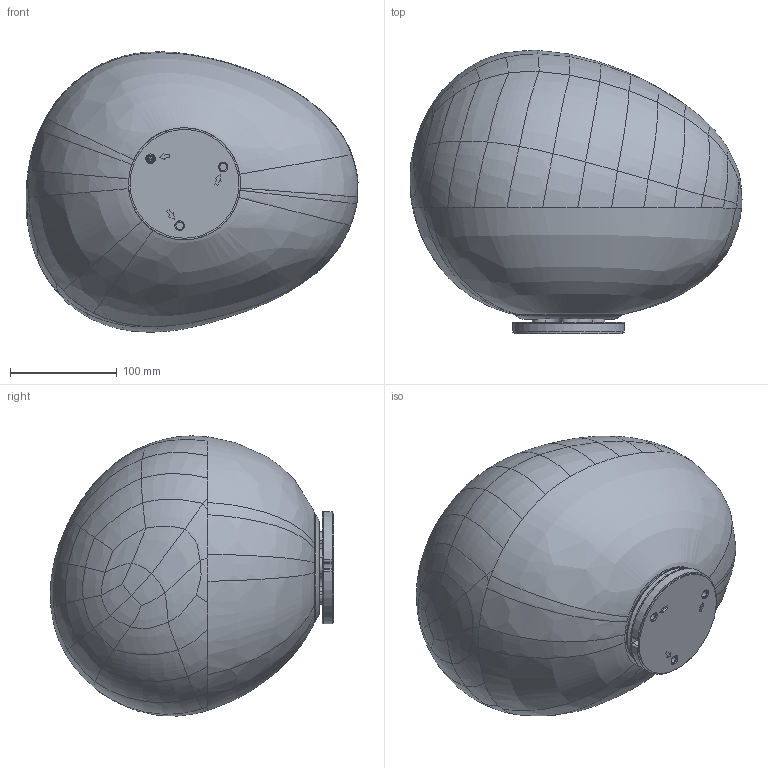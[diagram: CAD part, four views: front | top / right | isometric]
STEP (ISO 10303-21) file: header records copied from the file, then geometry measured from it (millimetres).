
FILE_DESCRIPTION (( 'STEP AP203' ), '1' );
FILE_NAME ('168_MEDIA_T_PL_3D.STEP', '2021-03-31T07:27:14', ( '' ), ( '' ), 'SwSTEP 2.0', 'SolidWorks 2021', '' );
FILE_SCHEMA (( 'CONFIG_CONTROL_DESIGN' ));
Length unit declared in the file: millimetre
Products named in the file (1): 168_MEDIA_T_PL_3D
Bounding box: 311.02 x 265.49 x 262.45 mm (x, y, z)
Volume: 694507.5 mm3; surface area: 527458.2 mm2
Topology: 9 solids, 9 shells, 595 faces, 1453 edges, 874 vertices
Faces by surface type: bspline 254, cylinder 172, plane 105, torus 32, cone 20, sphere 12
Entity records: 289069 total; most frequent: CARTESIAN_POINT 276935, ORIENTED_EDGE 2882, DIRECTION 1861, EDGE_CURVE 1441, VERTEX_POINT 874, AXIS2_PLACEMENT_3D 733, EDGE_LOOP 661, ADVANCED_FACE 595
